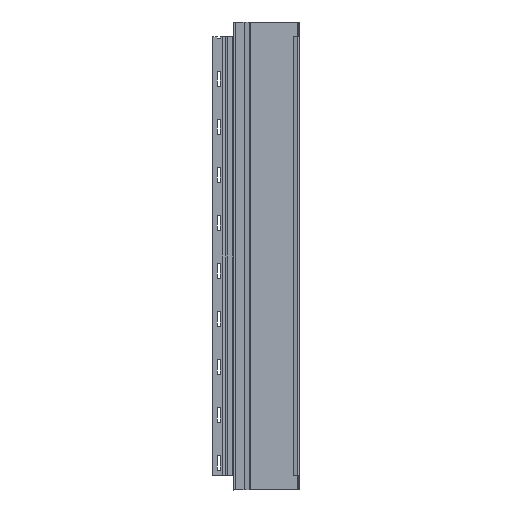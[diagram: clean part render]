
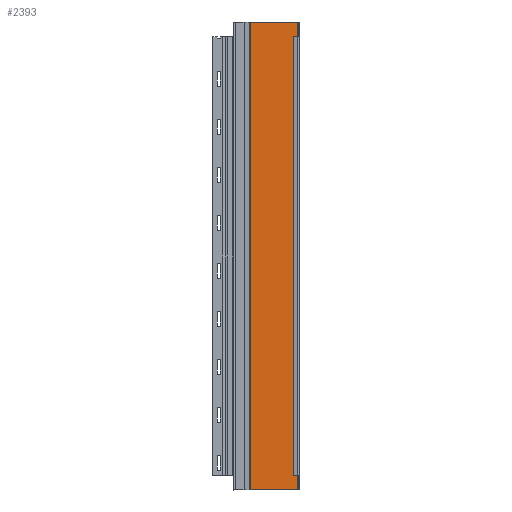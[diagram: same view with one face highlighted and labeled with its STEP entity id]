
A CAD part, front view. The second image highlights one B-rep face of the part: STEP entity #2393.
In plain terms, the highlighted planar face has unit normal (0, -1, 0).
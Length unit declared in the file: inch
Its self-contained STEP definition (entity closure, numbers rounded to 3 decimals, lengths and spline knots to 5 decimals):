
#169 = CARTESIAN_POINT ( 'NONE',  ( 0.2158, 0., 0. ) ) ;
#171 = VERTEX_POINT ( 'NONE', #1859 ) ;
#177 = VECTOR ( 'NONE', #1774, 39.37008 ) ;
#234 = EDGE_CURVE ( 'NONE', #265, #932, #2194, .T. ) ;
#255 = LINE ( 'NONE', #330, #177 ) ;
#265 = VERTEX_POINT ( 'NONE', #1779 ) ;
#315 = VECTOR ( 'NONE', #1714, 39.37008 ) ;
#330 = CARTESIAN_POINT ( 'NONE',  ( 0.2158, 0., 23.62205 ) ) ;
#792 = ORIENTED_EDGE ( 'NONE', *, *, #2839, .F. ) ;
#902 = VECTOR ( 'NONE', #2308, 39.37008 ) ;
#932 = VERTEX_POINT ( 'NONE', #169 ) ;
#1114 = CARTESIAN_POINT ( 'NONE',  ( 0.2158, 0., 23.62205 ) ) ;
#1201 = LINE ( 'NONE', #1905, #3068 ) ;
#1360 = DIRECTION ( 'NONE',  ( 0., 1., 0. ) ) ;
#1497 = ORIENTED_EDGE ( 'NONE', *, *, #2209, .F. ) ;
#1607 = CARTESIAN_POINT ( 'NONE',  ( -2.17396, 0., 23.62205 ) ) ;
#1666 = AXIS2_PLACEMENT_3D ( 'NONE', #1114, #1360, #3071 ) ;
#1668 = DIRECTION ( 'NONE',  ( 0., 0., -1. ) ) ;
#1714 = DIRECTION ( 'NONE',  ( 0., 0., -1. ) ) ;
#1774 = DIRECTION ( 'NONE',  ( 1., 0., 0. ) ) ;
#1779 = CARTESIAN_POINT ( 'NONE',  ( -2.17396, 0., 0. ) ) ;
#1859 = CARTESIAN_POINT ( 'NONE',  ( 0.2158, 0., 23.62205 ) ) ;
#1905 = CARTESIAN_POINT ( 'NONE',  ( -2.17396, 0., 23.62205 ) ) ;
#1979 = EDGE_LOOP ( 'NONE', ( #2708, #792, #1497, #1981 ) ) ;
#1981 = ORIENTED_EDGE ( 'NONE', *, *, #2712, .T. ) ;
#2069 = CARTESIAN_POINT ( 'NONE',  ( 0.2158, 0., 0. ) ) ;
#2194 = LINE ( 'NONE', #2069, #902 ) ;
#2209 = EDGE_CURVE ( 'NONE', #2590, #171, #255, .T. ) ;
#2308 = DIRECTION ( 'NONE',  ( 1., 0., 0. ) ) ;
#2393 = ADVANCED_FACE ( 'NONE', ( #2449 ), #2823, .F. ) ;
#2420 = CARTESIAN_POINT ( 'NONE',  ( 0.2158, 0., 23.62205 ) ) ;
#2449 = FACE_OUTER_BOUND ( 'NONE', #1979, .T. ) ;
#2590 = VERTEX_POINT ( 'NONE', #1607 ) ;
#2708 = ORIENTED_EDGE ( 'NONE', *, *, #234, .T. ) ;
#2712 = EDGE_CURVE ( 'NONE', #2590, #265, #1201, .T. ) ;
#2823 = PLANE ( 'NONE',  #1666 ) ;
#2839 = EDGE_CURVE ( 'NONE', #171, #932, #2841, .T. ) ;
#2841 = LINE ( 'NONE', #2420, #315 ) ;
#3068 = VECTOR ( 'NONE', #1668, 39.37008 ) ;
#3071 = DIRECTION ( 'NONE',  ( -1., 0., 0. ) ) ;
